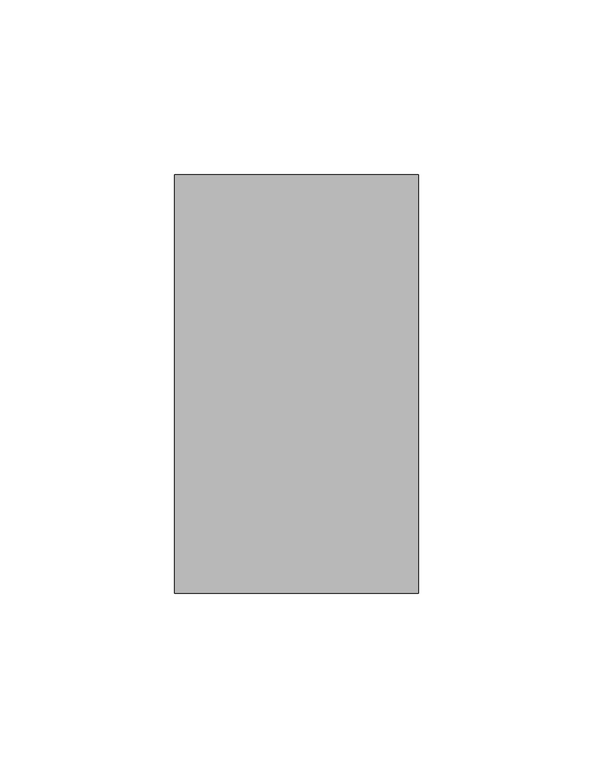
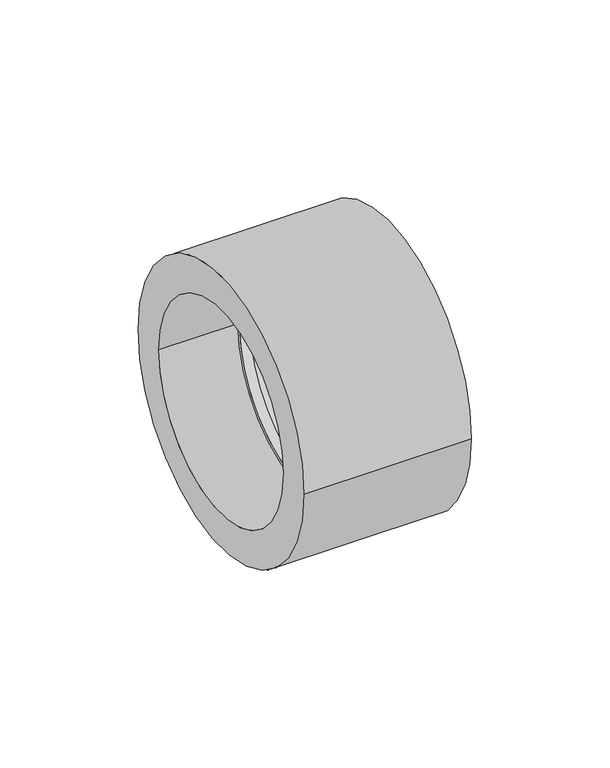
"""IFC4 building model written with IfcOpenShell, lengths in millimetres: pipe fitting geometry, 18_Муфта полипропиленовая : Серый цвет."""

from ifc_helpers import new_model, si_unit, frame, origin, place, context, project, spatial, polyline, circle_curve, source, transform, mapped, element, save
from ifc_brep_helpers import plane_surface, cylinder_surface, revolved_surface, advanced_brep


def pipe_fitting_f6f427d2(model_context):
    return source(origin(), model_context, "Body", "AdvancedBrep", [
        advanced_brep(
        [(-35.0, -60.0, 0.0), (-35.0, 60.0, 0.0), (-35.0, -45.0, 0.0), (-35.0, 45.0, 0.0), (35.0, -60.0, 0.0), (35.0, 60.0, 0.0), (35.0, 45.0, 0.0), (35.0, -45.0, 0.0), (2.0, -45.0, 0.0), (2.0, 45.0, 0.0), (2.0, 43.5, 0.0), (2.0, -43.5, 0.0), (-2.0, -45.0, 0.0), (-2.0, 45.0, 0.0), (-2.0, -43.5, 0.0), (-2.0, 43.5, 0.0)],
        [
            (0, 1, circle_curve(frame((-35.0, 0.0, 0.0), z_axis=(-1.0, 0.0, 0.0), x_axis=(0.0, 1.0, 0.0)), 60.0)),
            (1, 0, circle_curve(frame((-35.0, 0.0, 0.0), z_axis=(-1.0, 0.0, 0.0), x_axis=(0.0, 1.0, 0.0)), 60.0)),
            (2, 3, circle_curve(frame((-35.0, 0.0, 0.0), z_axis=(1.0, 0.0, 0.0), x_axis=(0.0, 1.0, 0.0)), 45.0)),
            (3, 2, circle_curve(frame((-35.0, 0.0, 0.0), z_axis=(1.0, 0.0, 0.0), x_axis=(0.0, 1.0, 0.0)), 45.0)),
            (4, 5, circle_curve(frame((35.0, 0.0, 0.0), z_axis=(1.0, 0.0, 0.0), x_axis=(0.0, 1.0, 0.0)), 60.0)),
            (5, 4, circle_curve(frame((35.0, 0.0, 0.0), z_axis=(1.0, 0.0, 0.0), x_axis=(0.0, 1.0, 0.0)), 60.0)),
            (6, 7, circle_curve(frame((35.0, 0.0, 0.0), z_axis=(-1.0, 0.0, 0.0), x_axis=(0.0, 1.0, 0.0)), 45.0)),
            (7, 6, circle_curve(frame((35.0, 0.0, 0.0), z_axis=(-1.0, 0.0, 0.0), x_axis=(0.0, 1.0, 0.0)), 45.0)),
            (0, 4),
            (5, 1),
            (8, 9, circle_curve(frame((2.0, 0.0, 0.0), z_axis=(1.0, 0.0, 0.0), x_axis=(0.0, 1.0, 0.0)), 45.0)),
            (9, 8, circle_curve(frame((2.0, 0.0, 0.0), z_axis=(1.0, 0.0, 0.0), x_axis=(0.0, 1.0, 0.0)), 45.0)),
            (10, 11, circle_curve(frame((2.0, 0.0, 0.0), z_axis=(-1.0, 0.0, 0.0), x_axis=(0.0, 1.0, 0.0)), 43.5)),
            (11, 10, circle_curve(frame((2.0, 0.0, 0.0), z_axis=(-1.0, 0.0, 0.0), x_axis=(0.0, 1.0, 0.0)), 43.5)),
            (8, 7),
            (6, 9),
            (12, 13, circle_curve(frame((-2.0, 0.0, 0.0), z_axis=(-1.0, 0.0, 0.0), x_axis=(0.0, 1.0, 0.0)), 45.0)),
            (13, 12, circle_curve(frame((-2.0, 0.0, 0.0), z_axis=(-1.0, 0.0, 0.0), x_axis=(0.0, 1.0, 0.0)), 45.0)),
            (14, 15, circle_curve(frame((-2.0, 0.0, 0.0), z_axis=(1.0, 0.0, 0.0), x_axis=(0.0, 1.0, 0.0)), 43.5)),
            (15, 14, circle_curve(frame((-2.0, 0.0, 0.0), z_axis=(1.0, 0.0, 0.0), x_axis=(0.0, 1.0, 0.0)), 43.5)),
            (13, 3),
            (2, 12),
            (10, 15),
            (14, 11),
        ],
        [
            plane_surface(frame((-35.0, 0.0, 0.0), z_axis=(-1.0, 0.0, 0.0), x_axis=(0.0, 0.0, 1.0))),
            plane_surface(frame((35.0, 0.0, 0.0), z_axis=(1.0, 0.0, 0.0), x_axis=(0.0, 0.0, 1.0))),
            cylinder_surface(frame((-35.0, 0.0, 0.0), z_axis=(-1.0, 0.0, 0.0), x_axis=(0.0, 1.0, 0.0)), 60.0),
            plane_surface(frame((2.0, 45.0, 0.0), z_axis=(1.0, 0.0, 0.0), x_axis=(0.0, 0.0, -1.0))),
            revolved_surface(polyline([(35.0, 45.0, 0.0), (2.0, 45.0, 0.0)]), (2.0, 0.0, 0.0), (1.0, 0.0, 0.0)),
            plane_surface(frame((-2.0, 45.0, 0.0), z_axis=(-1.0, 0.0, 0.0), x_axis=(0.0, 0.0, 1.0))),
            revolved_surface(polyline([(-35.0, 45.0, 0.0), (-2.0, 45.0, 0.0)]), (-2.0, 0.0, 0.0), (-1.0, 0.0, 0.0)),
            revolved_surface(polyline([(2.0, 43.5, 0.0), (-2.0, 43.5, 0.0)]), (-2.0, 0.0, 0.0), (1.0, 0.0, 0.0)),
        ],
        [
            (0, [[1, 2], [3, 4]]),
            (1, [[5, 6], [7, 8]]),
            (2, [[-1, 9, -6, 10]]),
            (2, [[-2, -10, -5, -9]]),
            (3, [[11, 12], [13, 14]]),
            (4, [[-11, 15, -7, 16]]),
            (4, [[-12, -16, -8, -15]]),
            (5, [[17, 18], [19, 20]]),
            (6, [[-18, 21, -3, 22]]),
            (6, [[-17, -22, -4, -21]]),
            (7, [[23, -19, 24, -13]]),
            (7, [[-23, -14, -24, -20]]),
        ],
    ),
    ])


if __name__ == "__main__":
    model = new_model("IFC4")
    model_context = context("Model", 3, world=origin())
    ifc_project = project(units=[si_unit("LENGTHUNIT", "METRE", prefix="MILLI")], contexts=[model_context])
    site = spatial("IfcSite", under=ifc_project)
    building = spatial("IfcBuilding", under=site)
    placement = place(None, origin())
    pipe_fitting_shape = pipe_fitting_f6f427d2(model_context)
    element("IfcPipeFitting", 1, ObjectType="18_Муфта полипропиленовая : Серый цвет", at=placement, inside=building, context=model_context, shape_type="MappedRepresentation", body=[
        mapped(pipe_fitting_shape, transform((0.0, 0.0, 0.0), x_axis=(1.0, 0.0, 0.0), y_axis=(0.0, 1.0, 0.0), z_axis=(0.0, 0.0, 1.0))),
    ])
    save(model, "model.ifc")
